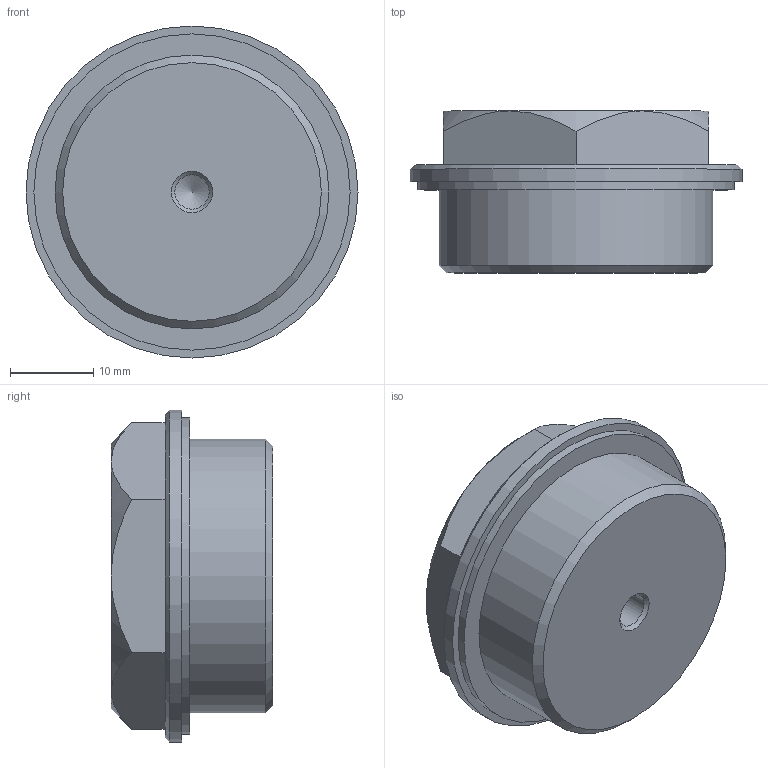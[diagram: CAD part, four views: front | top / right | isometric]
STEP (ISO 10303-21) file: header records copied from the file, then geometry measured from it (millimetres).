
FILE_DESCRIPTION( ( 'STEP AP203' ), '1' );
FILE_NAME( 'C:/Temp/Ganter_Step_05_03_2020/data/3_5/gn742/gn742_1/Threaded plug GN 742-40-M33x1,5-AS-1.stp', '2020-03-12T13:38:54', ( 'License CC BY-ND 4.0' ), ( 'CADENAS' ), ' ', 'PARTsolutions', ' ' );
FILE_SCHEMA( ( 'CONFIG_CONTROL_DESIGN' ) );
Length unit declared in the file: millimetre
Products named in the file (1): _Threaded plug GN 742-40-M33x1,5-AS-1
Bounding box: 40 x 19.5 x 40 mm (x, y, z)
Volume: 17639.6 mm3; surface area: 4684.3 mm2
Topology: 1 solids, 1 shells, 52 faces, 125 edges, 80 vertices
Faces by surface type: plane 38, cone 10, cylinder 4
Full cylindrical faces by diameter (mm): 4.134 x1, 33 x1, 38.1 x1, 40 x1
Entity records: 1545 total; most frequent: CARTESIAN_POINT 333, ORIENTED_EDGE 232, DIRECTION 227, EDGE_CURVE 116, LINE 87, VECTOR 87, VERTEX_POINT 80, AXIS2_PLACEMENT_3D 70
